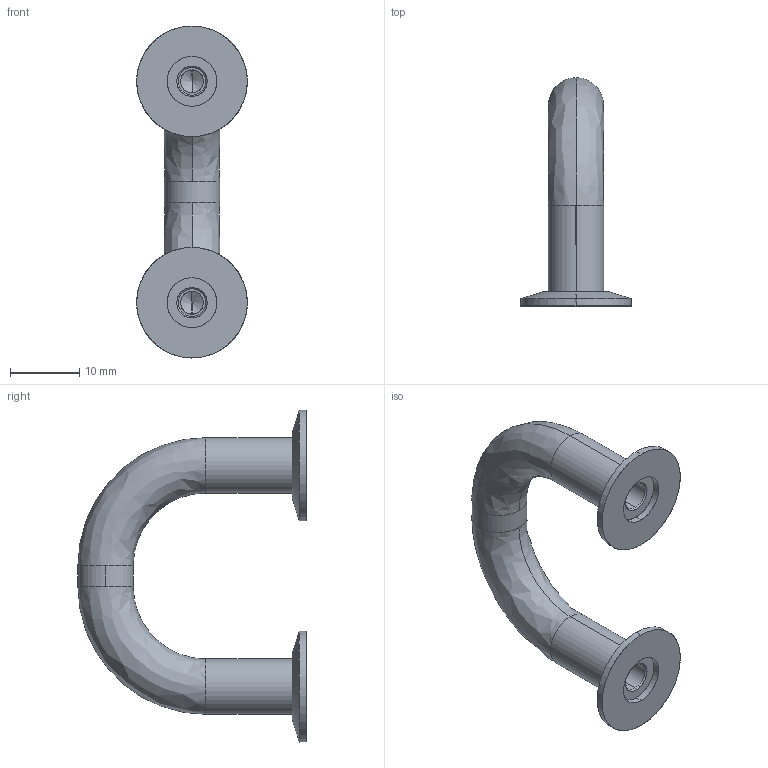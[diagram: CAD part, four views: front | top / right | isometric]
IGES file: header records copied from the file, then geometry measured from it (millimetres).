
Start section: SolidWorks IGES file using analytic representation for surfaces
Global section: file name: C:\Documents and Settings\IANO\Desktop\Temp File\Process pending\PCN pending\78700_v2\78700_v2_20170116_IGES\78700.W0103.igs; native system: SolidWorks 2009; preprocessor: SolidWorks 2009; author: IANO; date: 170310.095612; units: millimetre
Bounding box: 16 x 33 x 48 mm (x, y, z)
Surface area: 3037.4 mm2 (no closed solid volume)
Topology: 0 solids, 0 shells, 52 faces, 816 edges, 812 vertices
Faces by surface type: revolution 38, bspline 14
